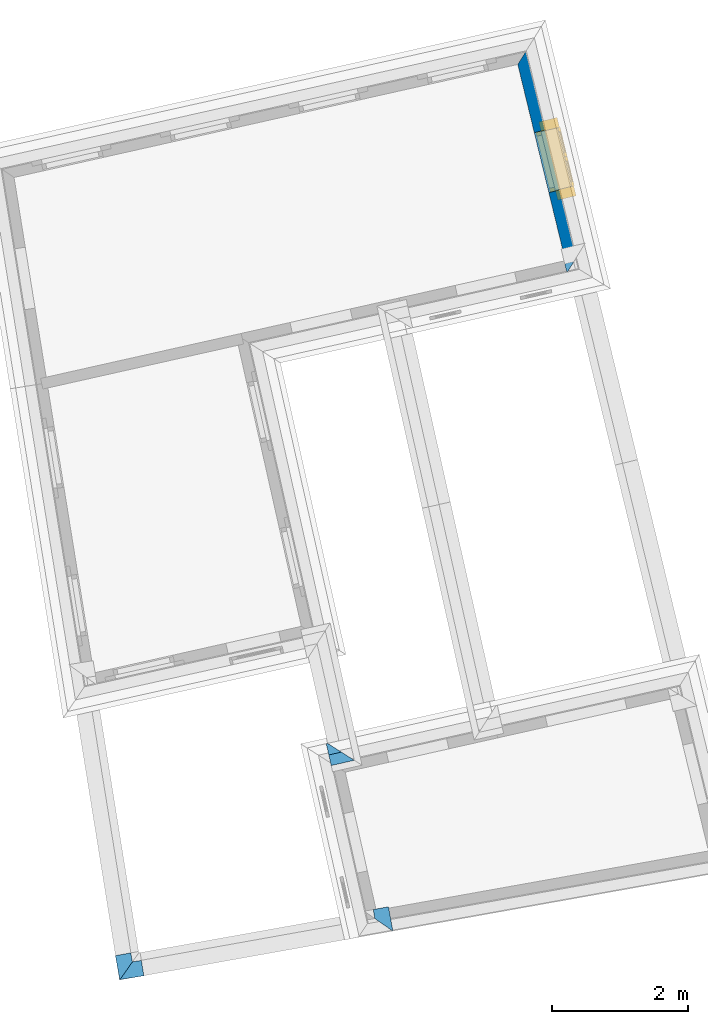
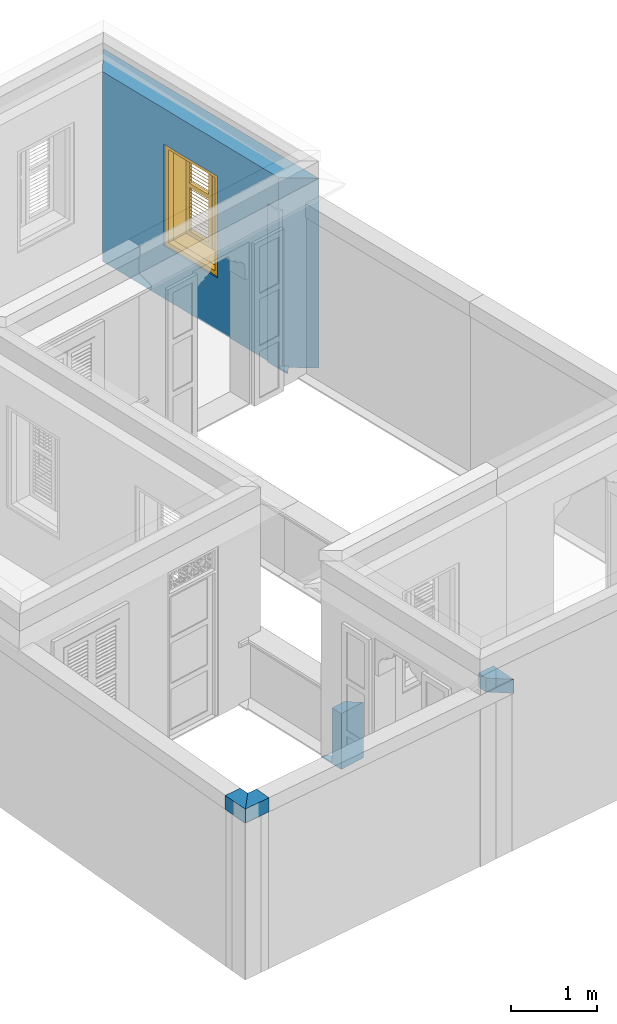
# One storey, part 12 of 15: 6 walls, 1 window, 1 opening.
"""IFC4 building model written with IfcOpenShell, lengths in metres."""

from ifc_helpers import new_model, si_unit, frame, origin, origin_with_axes, place, context, subcontext, project, spatial, polyline, outline, extrude, clip, halfspace, faceted_brep, source, transform, mapped, material, layer, layer_set, layer_usage, material_profile, profile_set, profile_usage, type_object, type_shapes, element, fill, save


model = new_model("IFC4")

# Units and contexts
model_context = context("Model", 3, world=origin_with_axes())
body_context = subcontext(model_context, "Body", "Model", "MODEL_VIEW")
ifc_project = project(units=[si_unit("PLANEANGLEUNIT", "RADIAN"), si_unit("MASSUNIT", "GRAM", prefix="KILO"), si_unit("FORCEUNIT", "NEWTON", prefix="KILO"), si_unit("LENGTHUNIT", "METRE"), si_unit("AREAUNIT", "SQUARE_METRE"), si_unit("VOLUMEUNIT", "CUBIC_METRE")], contexts=[model_context, model_context])

# Site, building, storey
site_placement = place(None, origin_with_axes())
site = spatial("IfcSite", under=ifc_project, at=site_placement, Name="Site plot-10", CompositionType="ELEMENT")
building_placement = place(None, origin_with_axes())
building = spatial("IfcBuilding", under=site, at=building_placement, Name="Building plot-10", CompositionType="ELEMENT")
storey_placement = place(None, frame((0.0, 0.0, 2.7), z_axis=(0.0, 0.0, 1.0), x_axis=(1.0, 0.0, 0.0)))
storey = spatial("IfcBuildingStorey", under=building, at=storey_placement, Name="plot-10 1", CompositionType="ELEMENT", Elevation=2.7)

# Wall, opening, window
ifc_material = material(Name="Masonry")
ifc_layer = layer(ifc_material, 0.33, ventilated=False)
ifc_layer_set = layer_set([ifc_layer], Name="exterior_0.08_0.25")
ifc_layer_usage = layer_usage(ifc_layer_set, "AXIS2", "POSITIVE", -0.25)
wall_type_1 = type_object("IfcWallType", Name="exterior_0.08_0.25", PredefinedType="SOLIDWALL", material=ifc_layer_set)
wall_1_placement = place(storey_placement, frame((-16.6872846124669, 18.2683380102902, 0.0), z_axis=(0.0, 0.0, 1.0), x_axis=(-0.235675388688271, 0.9718318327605, 0.0)))
wall_1 = element("IfcWall", 1, at=wall_1_placement, inside=storey, type_object=wall_type_1, material=ifc_layer_usage, Name="exterior", context=body_context, shape_type="SweptSolid", body=[
    extrude(outline(polyline([(0.0813879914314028, 0.0800000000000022), (-0.254337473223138, -0.249999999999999), (3.38324971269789, -0.249999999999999), (3.0588775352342, 0.0800000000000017), (0.0813879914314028, 0.0800000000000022)])), origin_with_axes(), (0.0, 0.0, 1.0), 2.7),
])
opening_placement = place(wall_1_placement, frame((1.11375660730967, 0.0, 0.75)))
opening = element("IfcOpeningElement", 2, at=opening_placement, cuts=wall_1, Name="My Opening", ObjectType="Opening", context=body_context, shape_type="SweptSolid", body=[
    extrude(outline(polyline([(0.0, -0.270000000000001), (0.910000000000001, -0.270000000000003), (0.909999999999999, 1.1), (-2.22044604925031e-15, 1.1), (0.0, -0.270000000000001)])), origin_with_axes(), (0.0, 0.0, 1.0), 1.445),
])
window_type = type_object("IfcWindowType", Name="shuttered_shorter", PartitioningType="DOUBLE_PANEL_HORIZONTAL", PredefinedType="NOTDEFINED")
shared_shape = source(origin(), body_context, "Body", "Brep", [
    faceted_brep([(0.393, 0.0, 0.622), (0.074, 0.0, 0.622), (0.074, 0.0, 0.632), (0.393, 0.0, 0.632), (0.074, -0.04, 0.592), (0.393, -0.04, 0.592), (0.393, -0.04, 0.582), (0.074, -0.04, 0.582), (0.517, 0.0, 0.682), (0.836, 0.0, 0.682), (0.836, 0.0, 0.672), (0.517, 0.0, 0.672), (0.517, -0.04, 0.642), (0.836, -0.04, 0.642), (0.836, -0.04, 0.632), (0.517, -0.04, 0.632), (0.517, 0.0, 0.632), (0.836, 0.0, 0.632), (0.836, 0.0, 0.622), (0.517, 0.0, 0.622), (0.517, -0.04, 0.592), (0.836, -0.04, 0.592), (0.836, -0.04, 0.582), (0.517, -0.04, 0.582), (0.517, 0.0, 0.232), (0.836, 0.0, 0.232), (0.836, 0.0, 0.222), (0.517, 0.0, 0.222), (0.517, -0.04, 0.192), (0.836, -0.04, 0.192), (0.836, -0.04, 0.182), (0.517, -0.04, 0.182), (0.517, 0.0, 0.532), (0.836, 0.0, 0.532), (0.836, 0.0, 0.522), (0.517, 0.0, 0.522), (0.517, -0.04, 0.492), (0.836, -0.04, 0.492), (0.836, -0.04, 0.482), (0.517, -0.04, 0.482), (0.517, 0.0, 0.482), (0.836, 0.0, 0.482), (0.836, 0.0, 0.472), (0.517, 0.0, 0.472), (0.517, -0.04, 0.442), (0.836, -0.04, 0.442), (0.836, -0.04, 0.432), (0.517, -0.04, 0.432), (0.517, 0.0, 0.582), (0.836, 0.0, 0.582), (0.836, 0.0, 0.572), (0.517, 0.0, 0.572), (0.517, -0.04, 0.542), (0.836, -0.04, 0.542), (0.836, -0.04, 0.532), (0.517, -0.04, 0.532), (0.517, 0.0, 0.182), (0.836, 0.0, 0.182), (0.836, 0.0, 0.172), (0.517, 0.0, 0.172), (0.517, -0.04, 0.142), (0.836, -0.04, 0.142), (0.836, -0.04, 0.132), (0.517, -0.04, 0.132), (0.517, 0.0, 0.382), (0.836, 0.0, 0.382), (0.836, 0.0, 0.372), (0.517, 0.0, 0.372), (0.517, -0.04, 0.342), (0.836, -0.04, 0.342), (0.836, -0.04, 0.332), (0.517, -0.04, 0.332), (0.517, 0.0, 0.432), (0.836, 0.0, 0.432), (0.836, 0.0, 0.422), (0.517, 0.0, 0.422), (0.517, -0.04, 0.392), (0.836, -0.04, 0.392), (0.836, -0.04, 0.382), (0.517, -0.04, 0.382), (0.517, 0.0, 0.132), (0.836, 0.0, 0.132), (0.836, 0.0, 0.122), (0.517, 0.0, 0.122), (0.517, -0.04, 0.092), (0.836, -0.04, 0.092), (0.836, -0.04, 0.082), (0.517, -0.04, 0.082), (0.517, 0.0, 0.282), (0.836, 0.0, 0.282), (0.836, 0.0, 0.272), (0.517, 0.0, 0.272), (0.517, -0.04, 0.242), (0.836, -0.04, 0.242), (0.836, -0.04, 0.232), (0.517, -0.04, 0.232), (0.517, 0.0, 0.332), (0.836, 0.0, 0.332), (0.836, 0.0, 0.322), (0.517, 0.0, 0.322), (0.517, -0.04, 0.292), (0.836, -0.04, 0.292), (0.836, -0.04, 0.282), (0.517, -0.04, 0.282), (0.517, 0.0, 1.362667), (0.836, 0.0, 1.362667), (0.836, 0.0, 1.352667), (0.517, 0.0, 1.352667), (0.517, -0.04, 1.322667), (0.836, -0.04, 1.322667), (0.836, -0.04, 1.312667), (0.517, -0.04, 1.312667), (0.517, 0.0, 1.312667), (0.836, 0.0, 1.312667), (0.836, 0.0, 1.302667), (0.517, 0.0, 1.302667), (0.517, -0.04, 1.272667), (0.836, -0.04, 1.272667), (0.836, -0.04, 1.262667), (0.517, -0.04, 1.262667), (0.517, 0.0, 0.912667), (0.836, 0.0, 0.912667), (0.836, 0.0, 0.902667), (0.517, 0.0, 0.902667), (0.517, -0.04, 0.872667), (0.836, -0.04, 0.872667), (0.836, -0.04, 0.862667), (0.517, -0.04, 0.862667), (0.517, 0.0, 1.212667), (0.836, 0.0, 1.212667), (0.836, 0.0, 1.202667), (0.517, 0.0, 1.202667), (0.517, -0.04, 1.172667), (0.836, -0.04, 1.172667), (0.836, -0.04, 1.162667), (0.517, -0.04, 1.162667), (0.517, 0.0, 1.162667), (0.836, 0.0, 1.162667), (0.836, 0.0, 1.152667), (0.517, 0.0, 1.152667), (0.517, -0.04, 1.122667), (0.836, -0.04, 1.122667), (0.836, -0.04, 1.112667), (0.517, -0.04, 1.112667), (0.517, 0.0, 1.262667), (0.836, 0.0, 1.262667), (0.836, 0.0, 1.252667), (0.517, 0.0, 1.252667), (0.517, -0.04, 1.222667), (0.836, -0.04, 1.222667), (0.836, -0.04, 1.212667), (0.517, -0.04, 1.212667), (0.517, 0.0, 0.862667), (0.836, 0.0, 0.862667), (0.836, 0.0, 0.852667), (0.517, 0.0, 0.852667), (0.517, -0.04, 0.822667), (0.836, -0.04, 0.822667), (0.836, -0.04, 0.812667), (0.517, -0.04, 0.812667), (0.517, 0.0, 1.062667), (0.836, 0.0, 1.062667), (0.836, 0.0, 1.052667), (0.517, 0.0, 1.052667), (0.517, -0.04, 1.022667), (0.836, -0.04, 1.022667), (0.836, -0.04, 1.012667), (0.517, -0.04, 1.012667), (0.517, 0.0, 1.112667), (0.836, 0.0, 1.112667), (0.836, 0.0, 1.102667), (0.517, 0.0, 1.102667), (0.517, -0.04, 1.072667), (0.836, -0.04, 1.072667), (0.836, -0.04, 1.062667), (0.517, -0.04, 1.062667), (0.517, 0.0, 0.812667), (0.836, 0.0, 0.812667), (0.836, 0.0, 0.802667), (0.517, 0.0, 0.802667), (0.517, -0.04, 0.772667), (0.836, -0.04, 0.772667), (0.836, -0.04, 0.762667), (0.517, -0.04, 0.762667), (0.517, 0.0, 0.962667), (0.836, 0.0, 0.962667), (0.836, 0.0, 0.952667), (0.517, 0.0, 0.952667), (0.517, -0.04, 0.922667), (0.836, -0.04, 0.922667), (0.836, -0.04, 0.912667), (0.517, -0.04, 0.912667), (0.517, 0.0, 1.012667), (0.836, 0.0, 1.012667), (0.836, 0.0, 1.002667), (0.517, 0.0, 1.002667), (0.517, -0.04, 0.972667), (0.836, -0.04, 0.972667), (0.836, -0.04, 0.962667), (0.517, -0.04, 0.962667), (0.074, 0.0, 0.682), (0.393, 0.0, 0.682), (0.393, 0.0, 0.672), (0.074, 0.0, 0.672), (0.074, -0.04, 0.642), (0.393, -0.04, 0.642), (0.393, -0.04, 0.632), (0.074, -0.04, 0.632), (0.074, 0.0, 0.232), (0.393, 0.0, 0.232), (0.393, 0.0, 0.222), (0.074, 0.0, 0.222), (0.074, -0.04, 0.192), (0.393, -0.04, 0.192), (0.393, -0.04, 0.182), (0.074, -0.04, 0.182), (0.074, 0.0, 0.532), (0.393, 0.0, 0.532), (0.393, 0.0, 0.522), (0.074, 0.0, 0.522), (0.074, -0.04, 0.492), (0.393, -0.04, 0.492), (0.393, -0.04, 0.482), (0.074, -0.04, 0.482), (0.074, 0.0, 0.482), (0.393, 0.0, 0.482), (0.393, 0.0, 0.472), (0.074, 0.0, 0.472), (0.074, -0.04, 0.442), (0.393, -0.04, 0.442), (0.393, -0.04, 0.432), (0.074, -0.04, 0.432), (0.074, 0.0, 0.582), (0.393, 0.0, 0.582), (0.393, 0.0, 0.572), (0.074, 0.0, 0.572), (0.074, -0.04, 0.542), (0.393, -0.04, 0.542), (0.393, -0.04, 0.532), (0.074, -0.04, 0.532), (0.074, 0.0, 0.182), (0.393, 0.0, 0.182), (0.393, 0.0, 0.172), (0.074, 0.0, 0.172), (0.074, -0.04, 0.142), (0.393, -0.04, 0.142), (0.393, -0.04, 0.132), (0.074, -0.04, 0.132), (0.074, 0.0, 0.382), (0.393, 0.0, 0.382), (0.393, 0.0, 0.372), (0.074, 0.0, 0.372), (0.074, -0.04, 0.342), (0.393, -0.04, 0.342), (0.393, -0.04, 0.332), (0.074, -0.04, 0.332), (0.074, 0.0, 0.432), (0.393, 0.0, 0.432), (0.393, 0.0, 0.422), (0.074, 0.0, 0.422), (0.074, -0.04, 0.392), (0.393, -0.04, 0.392), (0.393, -0.04, 0.382), (0.074, -0.04, 0.382), (0.074, 0.0, 0.132), (0.393, 0.0, 0.132), (0.393, 0.0, 0.122), (0.074, 0.0, 0.122), (0.074, -0.04, 0.092), (0.393, -0.04, 0.092), (0.393, -0.04, 0.082), (0.074, -0.04, 0.082), (0.074, 0.0, 0.282), (0.393, 0.0, 0.282), (0.393, 0.0, 0.272), (0.074, 0.0, 0.272), (0.074, -0.04, 0.242), (0.393, -0.04, 0.242), (0.393, -0.04, 0.232), (0.074, -0.04, 0.232), (0.074, 0.0, 0.332), (0.393, 0.0, 0.332), (0.393, 0.0, 0.322), (0.074, 0.0, 0.322), (0.074, -0.04, 0.292), (0.393, -0.04, 0.292), (0.393, -0.04, 0.282), (0.074, -0.04, 0.282), (0.074, 0.0, 1.362667), (0.393, 0.0, 1.362667), (0.393, 0.0, 1.352667), (0.074, 0.0, 1.352667), (0.074, -0.04, 1.322667), (0.393, -0.04, 1.322667), (0.393, -0.04, 1.312667), (0.074, -0.04, 1.312667), (0.074, 0.0, 1.312667), (0.393, 0.0, 1.312667), (0.393, 0.0, 1.302667), (0.074, 0.0, 1.302667), (0.074, -0.04, 1.272667), (0.393, -0.04, 1.272667), (0.393, -0.04, 1.262667), (0.074, -0.04, 1.262667), (0.074, 0.0, 0.912667), (0.393, 0.0, 0.912667), (0.393, 0.0, 0.902667), (0.074, 0.0, 0.902667), (0.074, -0.04, 0.872667), (0.393, -0.04, 0.872667), (0.393, -0.04, 0.862667), (0.074, -0.04, 0.862667), (0.074, 0.0, 1.212667), (0.393, 0.0, 1.212667), (0.393, 0.0, 1.202667), (0.074, 0.0, 1.202667), (0.074, -0.04, 1.172667), (0.393, -0.04, 1.172667), (0.393, -0.04, 1.162667), (0.074, -0.04, 1.162667), (0.074, 0.0, 1.162667), (0.393, 0.0, 1.162667), (0.393, 0.0, 1.152667), (0.074, 0.0, 1.152667), (0.074, -0.04, 1.122667), (0.393, -0.04, 1.122667), (0.393, -0.04, 1.112667), (0.074, -0.04, 1.112667), (0.074, 0.0, 1.262667), (0.393, 0.0, 1.262667), (0.393, 0.0, 1.252667), (0.074, 0.0, 1.252667), (0.074, -0.04, 1.222667), (0.393, -0.04, 1.222667), (0.393, -0.04, 1.212667), (0.074, -0.04, 1.212667), (0.074, 0.0, 0.862667), (0.393, 0.0, 0.862667), (0.393, 0.0, 0.852667), (0.074, 0.0, 0.852667), (0.074, -0.04, 0.822667), (0.393, -0.04, 0.822667), (0.393, -0.04, 0.812667), (0.074, -0.04, 0.812667), (0.074, 0.0, 1.062667), (0.393, 0.0, 1.062667), (0.393, 0.0, 1.052667), (0.074, 0.0, 1.052667), (0.074, -0.04, 1.022667), (0.393, -0.04, 1.022667), (0.393, -0.04, 1.012667), (0.074, -0.04, 1.012667), (0.074, 0.0, 1.112667), (0.393, 0.0, 1.112667), (0.393, 0.0, 1.102667), (0.074, 0.0, 1.102667), (0.074, -0.04, 1.072667), (0.393, -0.04, 1.072667), (0.393, -0.04, 1.062667), (0.074, -0.04, 1.062667), (0.074, 0.0, 0.812667), (0.393, 0.0, 0.812667), (0.393, 0.0, 0.802667), (0.074, 0.0, 0.802667), (0.074, -0.04, 0.772667), (0.393, -0.04, 0.772667), (0.393, -0.04, 0.762667), (0.074, -0.04, 0.762667), (0.074, 0.0, 0.962667), (0.393, 0.0, 0.962667), (0.393, 0.0, 0.952667), (0.074, 0.0, 0.952667), (0.074, -0.04, 0.922667), (0.393, -0.04, 0.922667), (0.393, -0.04, 0.912667), (0.074, -0.04, 0.912667), (0.074, 0.0, 1.012667), (0.393, 0.0, 1.012667), (0.393, 0.0, 1.002667), (0.074, 0.0, 1.002667), (0.074, -0.04, 0.972667), (0.393, -0.04, 0.972667), (0.393, -0.04, 0.962667), (0.074, -0.04, 0.962667), (0.517, -0.04, 0.072), (0.457, -0.04, 0.012), (0.896, -0.04, 0.012), (0.836, -0.04, 0.072), (0.457, -0.04, 0.692667), (0.517, -0.04, 0.692667), (0.457, 0.0, 0.012), (0.896, 0.0, 0.012), (0.836, -0.04, 0.692667), (0.896, -0.04, 0.692667), (0.836, 0.0, 0.072), (0.517, 0.0, 0.072), (0.457, 0.0, 0.692667), (0.517, 0.0, 0.692667), (0.517, -0.04, 0.752666), (0.457, -0.04, 0.752666), (0.896, 0.0, 0.692667), (0.836, 0.0, 0.692667), (0.836, -0.04, 0.752666), (0.896, -0.04, 0.752666), (0.457, 0.0, 0.752666), (0.457, -0.04, 1.433333), (0.517, -0.04, 1.373333), (0.896, 0.0, 0.752666), (0.836, -0.04, 1.373333), (0.896, -0.04, 1.433333), (0.457, 0.0, 1.433333), (0.517, 0.0, 0.752666), (0.836, 0.0, 0.752666), (0.517, 0.0, 1.373333), (0.896, 0.0, 1.433333), (0.836, 0.0, 1.373333), (0.074, -0.04, 0.072), (0.014, -0.04, 0.012), (0.453, -0.04, 0.012), (0.393, -0.04, 0.072), (0.014, -0.04, 0.692667), (0.074, -0.04, 0.692667), (0.014, 0.0, 0.012), (0.453, 0.0, 0.012), (0.393, -0.04, 0.692667), (0.453, -0.04, 0.692667), (0.393, 0.0, 0.072), (0.074, 0.0, 0.072), (0.014, 0.0, 0.692667), (0.074, 0.0, 0.692667), (0.074, -0.04, 0.752666), (0.014, -0.04, 0.752666), (0.453, 0.0, 0.692667), (0.393, 0.0, 0.692667), (0.393, -0.04, 0.752666), (0.453, -0.04, 0.752666), (0.014, 0.0, 0.752666), (0.014, -0.04, 1.433333), (0.074, -0.04, 1.373333), (0.453, 0.0, 0.752666), (0.393, -0.04, 1.373333), (0.453, -0.04, 1.433333), (0.014, 0.0, 1.433333), (0.074, 0.0, 0.752666), (0.393, 0.0, 0.752666), (0.074, 0.0, 1.373333), (0.453, 0.0, 1.433333), (0.393, 0.0, 1.373333), (0.0, 0.33, 1.445), (0.91, 0.33, 1.445), (0.85, 0.33, 1.385), (0.06, 0.33, 1.385), (0.91, 0.25, 1.445), (0.0, 0.25, 1.445), (0.91, 0.25, 1.445), (0.85, 0.33, 0.06), (0.91, 0.33, 0.0), (0.85, 0.25, 1.385), (0.06, 0.25, 1.385), (0.0, 0.33, 0.0), (0.06, 0.33, 0.06), (0.0, 0.25, 0.0), (0.91, 0.25, 0.0), (0.85, 0.25, 0.06), (0.06, 0.25, 0.06), (1.05, 0.25, 1.585), (-0.14, 0.25, 1.585), (-0.14, -0.03, 1.585), (1.05, -0.03, 1.585), (0.9, -0.03, 1.435), (0.01, -0.03, 1.435), (0.01, 0.25, 1.435), (0.9, 0.25, 1.435), (0.9, 0.25, 0.01), (0.9, -0.03, 0.01), (1.05, -0.03, -0.14), (1.05, 0.25, -0.14), (0.01, -0.03, 0.01), (0.01, 0.25, 0.01), (-0.14, -0.03, -0.14), (-0.14, 0.25, -0.14)], [[[0, 1, 2, 3]], [[4, 5, 3, 2]], [[5, 6, 0, 3]], [[1, 0, 6, 7]], [[2, 1, 7, 4]], [[5, 4, 7, 6]], [[8, 9, 10, 11]], [[12, 13, 9, 8]], [[13, 14, 10, 9]], [[14, 15, 11, 10]], [[15, 12, 8, 11]], [[13, 12, 15, 14]], [[16, 17, 18, 19]], [[20, 21, 17, 16]], [[21, 22, 18, 17]], [[22, 23, 19, 18]], [[23, 20, 16, 19]], [[21, 20, 23, 22]], [[24, 25, 26, 27]], [[28, 29, 25, 24]], [[29, 30, 26, 25]], [[30, 31, 27, 26]], [[31, 28, 24, 27]], [[29, 28, 31, 30]], [[32, 33, 34, 35]], [[36, 37, 33, 32]], [[37, 38, 34, 33]], [[38, 39, 35, 34]], [[39, 36, 32, 35]], [[37, 36, 39, 38]], [[40, 41, 42, 43]], [[44, 45, 41, 40]], [[45, 46, 42, 41]], [[46, 47, 43, 42]], [[47, 44, 40, 43]], [[45, 44, 47, 46]], [[48, 49, 50, 51]], [[52, 53, 49, 48]], [[53, 54, 50, 49]], [[54, 55, 51, 50]], [[55, 52, 48, 51]], [[53, 52, 55, 54]], [[56, 57, 58, 59]], [[60, 61, 57, 56]], [[61, 62, 58, 57]], [[62, 63, 59, 58]], [[63, 60, 56, 59]], [[61, 60, 63, 62]], [[64, 65, 66, 67]], [[68, 69, 65, 64]], [[69, 70, 66, 65]], [[70, 71, 67, 66]], [[71, 68, 64, 67]], [[69, 68, 71, 70]], [[72, 73, 74, 75]], [[76, 77, 73, 72]], [[77, 78, 74, 73]], [[78, 79, 75, 74]], [[79, 76, 72, 75]], [[77, 76, 79, 78]], [[80, 81, 82, 83]], [[84, 85, 81, 80]], [[85, 86, 82, 81]], [[86, 87, 83, 82]], [[87, 84, 80, 83]], [[85, 84, 87, 86]], [[88, 89, 90, 91]], [[92, 93, 89, 88]], [[93, 94, 90, 89]], [[94, 95, 91, 90]], [[95, 92, 88, 91]], [[93, 92, 95, 94]], [[96, 97, 98, 99]], [[100, 101, 97, 96]], [[101, 102, 98, 97]], [[102, 103, 99, 98]], [[103, 100, 96, 99]], [[101, 100, 103, 102]], [[104, 105, 106, 107]], [[108, 109, 105, 104]], [[109, 110, 106, 105]], [[110, 111, 107, 106]], [[111, 108, 104, 107]], [[109, 108, 111, 110]], [[112, 113, 114, 115]], [[116, 117, 113, 112]], [[117, 118, 114, 113]], [[118, 119, 115, 114]], [[119, 116, 112, 115]], [[117, 116, 119, 118]], [[120, 121, 122, 123]], [[124, 125, 121, 120]], [[125, 126, 122, 121]], [[126, 127, 123, 122]], [[127, 124, 120, 123]], [[125, 124, 127, 126]], [[128, 129, 130, 131]], [[132, 133, 129, 128]], [[133, 134, 130, 129]], [[134, 135, 131, 130]], [[135, 132, 128, 131]], [[133, 132, 135, 134]], [[136, 137, 138, 139]], [[140, 141, 137, 136]], [[141, 142, 138, 137]], [[142, 143, 139, 138]], [[139, 143, 140, 136]], [[141, 140, 143, 142]], [[144, 145, 146, 147]], [[148, 149, 145, 144]], [[149, 150, 146, 145]], [[150, 151, 147, 146]], [[151, 148, 144, 147]], [[149, 148, 151, 150]], [[152, 153, 154, 155]], [[156, 157, 153, 152]], [[157, 158, 154, 153]], [[158, 159, 155, 154]], [[159, 156, 152, 155]], [[157, 156, 159, 158]], [[160, 161, 162, 163]], [[164, 165, 161, 160]], [[165, 166, 162, 161]], [[166, 167, 163, 162]], [[167, 164, 160, 163]], [[165, 164, 167, 166]], [[168, 169, 170, 171]], [[172, 173, 169, 168]], [[173, 174, 170, 169]], [[174, 175, 171, 170]], [[175, 172, 168, 171]], [[173, 172, 175, 174]], [[176, 177, 178, 179]], [[180, 181, 177, 176]], [[181, 182, 178, 177]], [[182, 183, 179, 178]], [[183, 180, 176, 179]], [[181, 180, 183, 182]], [[184, 185, 186, 187]], [[188, 189, 185, 184]], [[189, 190, 186, 185]], [[190, 191, 187, 186]], [[191, 188, 184, 187]], [[189, 188, 191, 190]], [[192, 193, 194, 195]], [[196, 197, 193, 192]], [[197, 198, 194, 193]], [[198, 199, 195, 194]], [[199, 196, 192, 195]], [[197, 196, 199, 198]], [[200, 201, 202, 203]], [[204, 205, 201, 200]], [[205, 206, 202, 201]], [[206, 207, 203, 202]], [[207, 204, 200, 203]], [[205, 204, 207, 206]], [[208, 209, 210, 211]], [[212, 213, 209, 208]], [[213, 214, 210, 209]], [[214, 215, 211, 210]], [[215, 212, 208, 211]], [[213, 212, 215, 214]], [[216, 217, 218, 219]], [[220, 221, 217, 216]], [[221, 222, 218, 217]], [[222, 223, 219, 218]], [[223, 220, 216, 219]], [[221, 220, 223, 222]], [[224, 225, 226, 227]], [[228, 229, 225, 224]], [[229, 230, 226, 225]], [[230, 231, 227, 226]], [[231, 228, 224, 227]], [[229, 228, 231, 230]], [[232, 233, 234, 235]], [[236, 237, 233, 232]], [[237, 238, 234, 233]], [[238, 239, 235, 234]], [[239, 236, 232, 235]], [[237, 236, 239, 238]], [[240, 241, 242, 243]], [[244, 245, 241, 240]], [[245, 246, 242, 241]], [[246, 247, 243, 242]], [[247, 244, 240, 243]], [[245, 244, 247, 246]], [[248, 249, 250, 251]], [[252, 253, 249, 248]], [[253, 254, 250, 249]], [[254, 255, 251, 250]], [[255, 252, 248, 251]], [[253, 252, 255, 254]], [[256, 257, 258, 259]], [[260, 261, 257, 256]], [[261, 262, 258, 257]], [[262, 263, 259, 258]], [[263, 260, 256, 259]], [[261, 260, 263, 262]], [[264, 265, 266, 267]], [[268, 269, 265, 264]], [[269, 270, 266, 265]], [[270, 271, 267, 266]], [[271, 268, 264, 267]], [[269, 268, 271, 270]], [[272, 273, 274, 275]], [[276, 277, 273, 272]], [[277, 278, 274, 273]], [[278, 279, 275, 274]], [[279, 276, 272, 275]], [[277, 276, 279, 278]], [[280, 281, 282, 283]], [[284, 285, 281, 280]], [[285, 286, 282, 281]], [[286, 287, 283, 282]], [[287, 284, 280, 283]], [[285, 284, 287, 286]], [[288, 289, 290, 291]], [[292, 293, 289, 288]], [[293, 294, 290, 289]], [[294, 295, 291, 290]], [[295, 292, 288, 291]], [[293, 292, 295, 294]], [[296, 297, 298, 299]], [[300, 301, 297, 296]], [[301, 302, 298, 297]], [[302, 303, 299, 298]], [[303, 300, 296, 299]], [[301, 300, 303, 302]], [[304, 305, 306, 307]], [[308, 309, 305, 304]], [[309, 310, 306, 305]], [[310, 311, 307, 306]], [[311, 308, 304, 307]], [[309, 308, 311, 310]], [[312, 313, 314, 315]], [[316, 317, 313, 312]], [[317, 318, 314, 313]], [[318, 319, 315, 314]], [[319, 316, 312, 315]], [[317, 316, 319, 318]], [[320, 321, 322, 323]], [[324, 325, 321, 320]], [[325, 326, 322, 321]], [[326, 327, 323, 322]], [[327, 324, 320, 323]], [[325, 324, 327, 326]], [[328, 329, 330, 331]], [[332, 333, 329, 328]], [[333, 334, 330, 329]], [[334, 335, 331, 330]], [[335, 332, 328, 331]], [[333, 332, 335, 334]], [[336, 337, 338, 339]], [[340, 341, 337, 336]], [[341, 342, 338, 337]], [[342, 343, 339, 338]], [[343, 340, 336, 339]], [[341, 340, 343, 342]], [[344, 345, 346, 347]], [[348, 349, 345, 344]], [[349, 350, 346, 345]], [[350, 351, 347, 346]], [[351, 348, 344, 347]], [[349, 348, 351, 350]], [[352, 353, 354, 355]], [[356, 357, 353, 352]], [[357, 358, 354, 353]], [[358, 359, 355, 354]], [[359, 356, 352, 355]], [[357, 356, 359, 358]], [[360, 361, 362, 363]], [[364, 365, 361, 360]], [[365, 366, 362, 361]], [[366, 367, 363, 362]], [[367, 364, 360, 363]], [[365, 364, 367, 366]], [[368, 369, 370, 371]], [[372, 373, 369, 368]], [[373, 374, 370, 369]], [[374, 375, 371, 370]], [[375, 372, 368, 371]], [[373, 372, 375, 374]], [[376, 377, 378, 379]], [[380, 381, 377, 376]], [[381, 382, 378, 377]], [[382, 383, 379, 378]], [[383, 380, 376, 379]], [[381, 380, 383, 382]], [[384, 385, 386, 387]], [[388, 385, 384, 389]], [[390, 391, 386, 385]], [[392, 387, 386, 393]], [[384, 387, 394, 395]], [[390, 385, 388, 396]], [[389, 384, 395, 397]], [[389, 398, 399, 388]], [[390, 395, 394, 391]], [[400, 393, 386, 391]], [[387, 392, 401, 394]], [[402, 392, 393, 403]], [[396, 388, 399, 404]], [[390, 396, 397, 395]], [[392, 389, 397, 401]], [[398, 389, 392, 402]], [[405, 399, 398, 406]], [[394, 401, 400, 391]], [[407, 403, 393, 400]], [[408, 402, 403, 409]], [[404, 399, 405, 410]], [[411, 397, 396, 404]], [[397, 411, 412, 401]], [[398, 402, 412, 411]], [[406, 398, 411, 413]], [[405, 406, 408, 409]], [[401, 412, 407, 400]], [[414, 409, 403, 407]], [[402, 408, 415, 412]], [[405, 409, 414, 410]], [[404, 410, 413, 411]], [[408, 406, 413, 415]], [[412, 415, 414, 407]], [[413, 410, 414, 415]], [[416, 417, 418, 419]], [[420, 417, 416, 421]], [[422, 423, 418, 417]], [[424, 419, 418, 425]], [[416, 419, 426, 427]], [[422, 417, 420, 428]], [[421, 416, 427, 429]], [[421, 430, 431, 420]], [[422, 427, 426, 423]], [[432, 425, 418, 423]], [[419, 424, 433, 426]], [[434, 424, 425, 435]], [[428, 420, 431, 436]], [[422, 428, 429, 427]], [[424, 421, 429, 433]], [[430, 421, 424, 434]], [[437, 431, 430, 438]], [[426, 433, 432, 423]], [[439, 435, 425, 432]], [[440, 434, 435, 441]], [[436, 431, 437, 442]], [[443, 429, 428, 436]], [[429, 443, 444, 433]], [[430, 434, 444, 443]], [[438, 430, 443, 445]], [[437, 438, 440, 441]], [[433, 444, 439, 432]], [[446, 441, 435, 439]], [[434, 440, 447, 444]], [[437, 441, 446, 442]], [[436, 442, 445, 443]], [[440, 438, 445, 447]], [[444, 447, 446, 439]], [[445, 442, 446, 447]], [[448, 449, 450, 451]], [[452, 449, 448]], [[448, 453, 454]], [[448, 454, 452]], [[455, 450, 449, 456]], [[451, 450, 457, 458]], [[459, 448, 451, 460]], [[448, 459, 461, 453]], [[454, 453, 458, 457]], [[462, 452, 454]], [[454, 457, 463]], [[454, 463, 462]], [[456, 449, 452, 462]], [[450, 455, 463, 457]], [[456, 459, 460, 455]], [[460, 451, 458, 464]], [[459, 456, 462, 461]], [[464, 458, 453, 461]], [[461, 462, 463, 464]], [[455, 460, 464, 463]], [[465, 466, 467, 468]], [[469, 470, 471, 472]], [[473, 474, 469, 472]], [[465, 468, 475, 476]], [[470, 477, 478, 471]], [[474, 473, 478, 477]], [[474, 477, 479, 475]], [[470, 467, 479, 477]], [[470, 469, 468, 467]], [[474, 475, 468, 469]], [[471, 478, 480, 466]], [[473, 472, 465, 476]], [[473, 476, 480, 478]], [[466, 465, 472, 471]], [[480, 476, 475, 479]], [[480, 479, 467, 466]]]),
])
type_shapes(window_type, [shared_shape])
window_placement = place(storey_placement, frame((-16.6873750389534, 19.4143544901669, 0.75), z_axis=(0.0, 0.0, 1.0), x_axis=(-0.214464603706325, 0.884366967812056, 0.0)))
window = element("IfcWindow", 3, at=window_placement, inside=storey, type_object=window_type, Name="living outside window", OverallHeight=1.445, OverallWidth=0.91, context=body_context, shape_type="MappedRepresentation", body=[
    mapped(shared_shape, transform((0.0, 0.0, 0.0), scale=1.0)),
])
fill(opening, window)

# Walls
ifc_material_profile_1 = material_profile(None, outline(polyline([(0.265, 2.245), (0.265, 2.445), (0.035, 2.445), (0.035, 2.245), (0.265, 2.245)])))
ifc_profile_set_1 = profile_set([ifc_material_profile_1])
ifc_profile_usage_1 = profile_usage(ifc_profile_set_1)
wall_type_2 = type_object("IfcWallType", Name="parapet street_1", PredefinedType="PARAPET", material=ifc_profile_set_1)
wall_2_placement = place(storey_placement, frame((-22.0532340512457, 8.20610043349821, 0.0), z_axis=(-0.987304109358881, -0.158841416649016, 0.0), x_axis=(0.158841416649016, -0.987304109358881, 0.0)))
element("IfcWall", 4, at=wall_2_placement, inside=storey, type_object=wall_type_2, material=ifc_profile_usage_1, Name="parapet street_1", context=body_context, shape_type="Clipping", body=[
    clip(clip(extrude(outline(polyline([(0.265, 2.245), (0.265, 2.445), (0.035, 2.445), (0.035, 2.245), (0.265, 2.245)])), origin_with_axes(), (0.0, 0.0, 1.0), 2.1), halfspace(frame((0.0, 0.0, 1.1), z_axis=(0.707106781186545, 0.0, -0.70710678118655), x_axis=(0.0, 1.0, 0.0)), True)), halfspace(frame((0.0, 0.0, 1.0), z_axis=(1.27103528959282e-15, 0.0, -1.0), x_axis=(0.0, 1.0, 0.0)), False)),
])
ifc_material_profile_2 = material_profile(None, outline(polyline([(0.25, 0.0), (0.25, 2.245), (0.05, 2.245), (0.05, 0.02), (-0.08, 0.02), (-0.08, 0.0), (0.25, 0.0)])))
ifc_profile_set_2 = profile_set([ifc_material_profile_2])
ifc_profile_usage_2 = profile_usage(ifc_profile_set_2)
wall_type_3 = type_object("IfcWallType", Name="parapet street_0", PredefinedType="PARAPET", material=ifc_profile_set_2)
wall_3_placement = place(storey_placement, frame((-17.7562996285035, 18.0090950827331, 0.0), z_axis=(0.971831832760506, 0.235675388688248, 0.0), x_axis=(-0.235675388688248, 0.971831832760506, 0.0)))
element("IfcWall", 5, at=wall_3_placement, inside=storey, type_object=wall_type_3, material=ifc_profile_usage_2, Name="parapet street_0", context=body_context, shape_type="Clipping", body=[
    clip(clip(extrude(outline(polyline([(0.25, 0.0), (0.25, 2.245), (0.05, 2.245), (0.05, 0.02), (-0.08, 0.02), (-0.08, 0.0), (0.25, 0.0)])), origin_with_axes(), (0.0, 0.0, 1.0), 2.1), halfspace(frame((0.0, 0.0, 1.1), z_axis=(0.707106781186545, 0.0, -0.70710678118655), x_axis=(0.0, 1.0, 0.0)), True)), halfspace(frame((0.0, 0.0, 1.0), z_axis=(8.26946079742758e-16, 0.0, -1.0), x_axis=(0.0, 1.0, 0.0)), False)),
])
ifc_material_profile_3 = material_profile(None, outline(polyline([(0.265, 2.245), (0.265, 2.445), (0.035, 2.445), (0.035, 2.245), (0.265, 2.245)])))
ifc_profile_set_3 = profile_set([ifc_material_profile_3])
ifc_profile_usage_3 = profile_usage(ifc_profile_set_3)
wall_type_4 = type_object("IfcWallType", Name="parapet party_1", PredefinedType="PARAPET", material=ifc_profile_set_3)
wall_4_placement = place(storey_placement, frame((-22.9632883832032, 7.04698116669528, 0.0), z_axis=(-0.175980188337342, 0.984393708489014, 0.0), x_axis=(-0.984393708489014, -0.175980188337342, 0.0)))
element("IfcWall", 6, at=wall_4_placement, inside=storey, type_object=wall_type_4, material=ifc_profile_usage_3, Name="parapet party_1", context=body_context, shape_type="Clipping", body=[
    clip(clip(extrude(outline(polyline([(0.265, 2.245), (0.265, 2.445), (0.035, 2.445), (0.035, 2.245), (0.265, 2.245)])), origin_with_axes(), (0.0, 0.0, 1.0), 2.1), halfspace(frame((0.0, 0.0, 1.1), z_axis=(-5.0532154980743e-16, 0.0, -1.0), x_axis=(0.0, 1.0, 0.0)), True)), halfspace(frame((0.0, 0.0, 1.0), z_axis=(-0.707106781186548, 0.0, -0.707106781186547), x_axis=(0.0, 1.0, 0.0)), False)),
])
ifc_profile_usage_4 = profile_usage(ifc_profile_set_3)
wall_5_placement = place(storey_placement, frame((-19.8278259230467, 9.74080097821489, 0.0), z_axis=(0.175980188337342, -0.984393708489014, 0.0), x_axis=(0.984393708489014, 0.175980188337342, 0.0)))
element("IfcWall", 7, at=wall_5_placement, inside=storey, type_object=wall_type_4, material=ifc_profile_usage_4, Name="parapet party_1", context=body_context, shape_type="Clipping", body=[
    clip(clip(extrude(outline(polyline([(0.265, 2.245), (0.265, 2.445), (0.035, 2.445), (0.035, 2.245), (0.265, 2.245)])), origin_with_axes(), (0.0, 0.0, 1.0), 2.1), halfspace(frame((0.0, 0.0, 1.1), z_axis=(0.707106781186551, 0.0, -0.707106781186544), x_axis=(0.0, 1.0, 0.0)), True)), halfspace(frame((0.0, 0.0, 1.0), z_axis=(-9.49410759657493e-16, 0.0, -1.0), x_axis=(0.0, 1.0, 0.0)), False)),
])
ifc_material_profile_4 = material_profile(None, outline(polyline([(0.25, 0.0), (0.25, 0.795), (0.09, 0.795), (0.09, 0.02), (-0.08, 0.02), (-0.08, 0.0), (0.25, 0.0)])))
ifc_profile_set_4 = profile_set([ifc_material_profile_4])
ifc_profile_usage_5 = profile_usage(ifc_profile_set_4)
wall_type_5 = type_object("IfcWallType", Name="parapet internal_0", PredefinedType="PARAPET", material=ifc_profile_set_4)
wall_6_placement = place(storey_placement, frame((-19.2180663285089, 11.3708280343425, 0.0), z_axis=(-0.975741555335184, -0.218925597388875, 0.0), x_axis=(0.218925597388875, -0.975741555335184, 0.0)))
element("IfcWall", 8, at=wall_6_placement, inside=storey, type_object=wall_type_5, material=ifc_profile_usage_5, Name="parapet internal_0", context=body_context, shape_type="Clipping", body=[
    clip(clip(extrude(outline(polyline([(0.25, 0.0), (0.25, 0.795), (0.09, 0.795), (0.09, 0.02), (-0.08, 0.02), (-0.08, 0.0), (0.25, 0.0)])), origin_with_axes(), (0.0, 0.0, 1.0), 2.1), halfspace(frame((0.0, 0.0, 1.1), z_axis=(-6.12323399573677e-17, 0.0, -1.0), x_axis=(0.0, 1.0, 0.0)), True)), halfspace(frame((0.0, 0.0, 1.0), z_axis=(-0.707106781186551, 0.0, -0.707106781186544), x_axis=(0.0, 1.0, 0.0)), False)),
])

save(model, "model.ifc")
